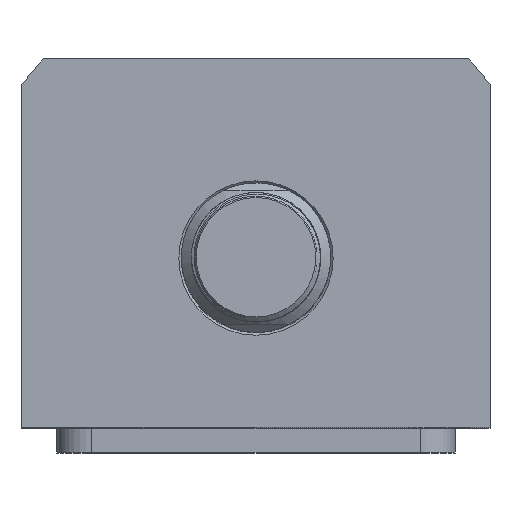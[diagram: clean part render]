
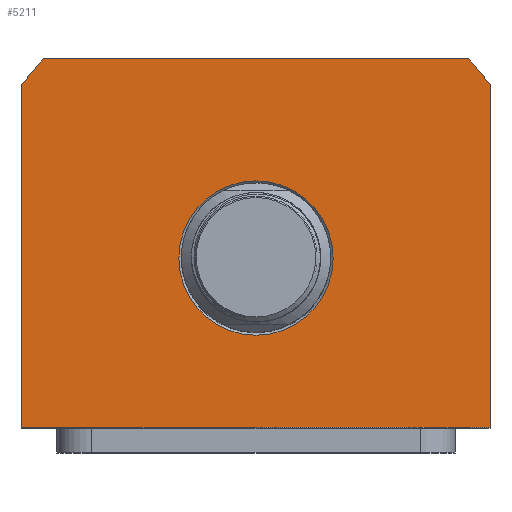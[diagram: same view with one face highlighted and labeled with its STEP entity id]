
A CAD part, top view. The second image highlights one B-rep face of the part: STEP entity #5211.
In plain terms, the highlighted planar face has unit normal (0, 0, 1).
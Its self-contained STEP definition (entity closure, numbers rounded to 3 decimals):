
#2434=PLANE('',#12050);
#3125=LINE('',#22245,#3961);
#3144=LINE('',#22920,#3980);
#3157=LINE('',#22953,#3993);
#3170=LINE('',#23011,#4006);
#3961=VECTOR('',#12602,1.);
#3980=VECTOR('',#12735,1.);
#3993=VECTOR('',#12756,1.);
#4006=VECTOR('',#12813,1.);
#5211=ADVANCED_FACE('',(#5829,#5830),#2434,.T.);
#5632=CIRCLE('',#11970,15.5);
#5670=CIRCLE('',#12033,58.5);
#5676=CIRCLE('',#12044,58.5);
#5829=FACE_BOUND('',#6068,.T.);
#5830=FACE_BOUND('',#6069,.T.);
#6068=EDGE_LOOP('',(#7250));
#6069=EDGE_LOOP('',(#7251,#7252,#7253,#7254,#7255,#7256));
#7250=ORIENTED_EDGE('',*,*,#10529,.T.);
#7251=ORIENTED_EDGE('',*,*,#10614,.T.);
#7252=ORIENTED_EDGE('',*,*,#10522,.T.);
#7253=ORIENTED_EDGE('',*,*,#10652,.T.);
#7254=ORIENTED_EDGE('',*,*,#10630,.T.);
#7255=ORIENTED_EDGE('',*,*,#10639,.T.);
#7256=ORIENTED_EDGE('',*,*,#10657,.T.);
#9475=VERTEX_POINT('',#22215);
#9490=VERTEX_POINT('',#22244);
#9497=VERTEX_POINT('',#22261);
#9574=VERTEX_POINT('',#22916);
#9591=VERTEX_POINT('',#22952);
#9592=VERTEX_POINT('',#22954);
#9597=VERTEX_POINT('',#22969);
#10522=EDGE_CURVE('',#9475,#9490,#3125,.T.);
#10529=EDGE_CURVE('',#9497,#9497,#5632,.T.);
#10614=EDGE_CURVE('',#9574,#9475,#3144,.T.);
#10630=EDGE_CURVE('',#9592,#9591,#3157,.T.);
#10639=EDGE_CURVE('',#9591,#9597,#5670,.T.);
#10652=EDGE_CURVE('',#9490,#9592,#5676,.T.);
#10657=EDGE_CURVE('',#9597,#9574,#3170,.T.);
#11970=AXIS2_PLACEMENT_3D('',#22260,#12615,#12616);
#12033=AXIS2_PLACEMENT_3D('',#22970,#12773,#12774);
#12044=AXIS2_PLACEMENT_3D('',#23002,#12801,#12802);
#12050=AXIS2_PLACEMENT_3D('',#23024,#12823,#12824);
#12602=DIRECTION('',(0.,1.,0.));
#12615=DIRECTION('',(0.,0.,-1.));
#12616=DIRECTION('',(1.,0.,0.));
#12735=DIRECTION('',(1.,0.,0.));
#12756=DIRECTION('',(-1.,0.,0.));
#12773=DIRECTION('',(0.,0.,1.));
#12774=DIRECTION('',(1.,0.,0.));
#12801=DIRECTION('',(0.,0.,1.));
#12802=DIRECTION('',(1.,0.,0.));
#12813=DIRECTION('',(0.,-1.,0.));
#12823=DIRECTION('',(0.,0.,1.));
#12824=DIRECTION('',(-1.,0.,0.));
#22215=CARTESIAN_POINT('',(51.003,-34.294,62.758));
#22244=CARTESIAN_POINT('',(51.003,34.538,62.758));
#22245=CARTESIAN_POINT('',(51.003,34.538,62.758));
#22260=CARTESIAN_POINT('',(4.003,-0.294,62.758));
#22261=CARTESIAN_POINT('',(19.503,-0.294,62.758));
#22916=CARTESIAN_POINT('',(-42.997,-34.294,62.758));
#22920=CARTESIAN_POINT('',(51.003,-34.294,62.758));
#22952=CARTESIAN_POINT('',(-38.685,39.706,62.758));
#22953=CARTESIAN_POINT('',(-38.685,39.706,62.758));
#22954=CARTESIAN_POINT('',(46.691,39.706,62.758));
#22969=CARTESIAN_POINT('',(-42.997,34.538,62.758));
#22970=CARTESIAN_POINT('',(4.003,-0.294,62.758));
#23002=CARTESIAN_POINT('',(4.003,-0.294,62.758));
#23011=CARTESIAN_POINT('',(-42.997,-34.294,62.758));
#23024=CARTESIAN_POINT('',(4.003,-0.294,62.758));
